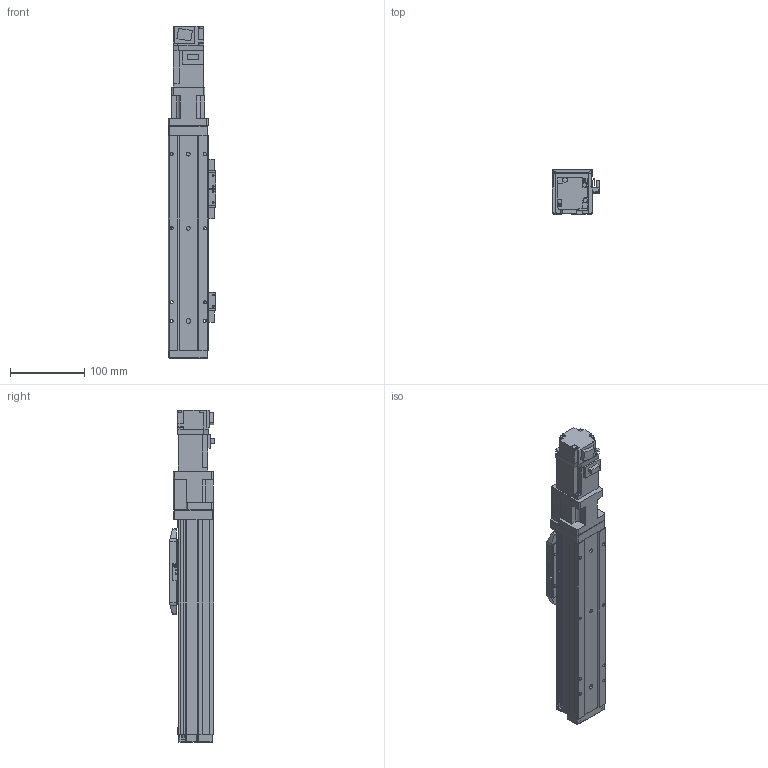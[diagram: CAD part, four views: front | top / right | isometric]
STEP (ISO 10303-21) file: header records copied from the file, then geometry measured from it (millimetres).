
FILE_DESCRIPTION (( 'STEP AP214' ), '1' );
FILE_NAME ('N_GRH5-150-BC-M10.step', '2025-03-14T09:33:44', ( '' ), ( '' ), 'SwSTEP 2.0', 'SolidWorks 2016', '' );
FILE_SCHEMA (( 'AUTOMOTIVE_DESIGN' ));
Length unit declared in the file: millimetre
Products named in the file (5): N_GRH5-GY-011^N_GRH5-150-BC-M10; N_GRH5-BC-008^N_GRH5-150-BC-M10; HF-KP13_100W_Motor^N_GRH5-150-BC-M10; N_GRH5-GY-004^N_GRH5-150-BC-M10; N_GRH5-150-BC-M10
Assembly tree (4 placements, depth 2):
  N_GRH5-150-BC-M10
    N_GRH5-GY-011^N_GRH5-150-BC-M10
    N_GRH5-GY-004^N_GRH5-150-BC-M10
    N_GRH5-BC-008^N_GRH5-150-BC-M10
    HF-KP13_100W_Motor^N_GRH5-150-BC-M10
Bounding box: 64.05 x 60.7 x 447.9 mm (x, y, z)
Volume: 834144.1 mm3; surface area: 214637.2 mm2
Topology: 4 solids, 5 shells, 904 faces, 2342 edges, 1487 vertices
Faces by surface type: plane 548, cylinder 296, cone 58, sphere 2
Entity records: 33838 total; most frequent: CARTESIAN_POINT 4776, DIRECTION 4745, ORIENTED_EDGE 4612, EDGE_CURVE 2306, LINE 1653, VECTOR 1653, AXIS2_PLACEMENT_3D 1546, VERTEX_POINT 1485
